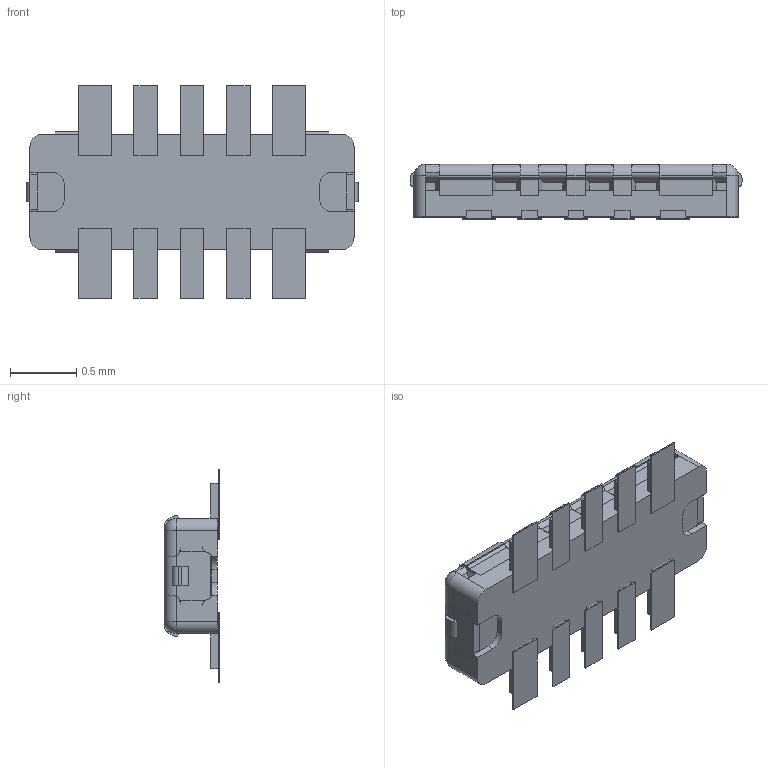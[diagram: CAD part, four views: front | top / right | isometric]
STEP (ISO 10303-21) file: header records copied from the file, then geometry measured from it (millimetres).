
FILE_DESCRIPTION((''),'2;1');
FILE_NAME('GT-B0353MSV04-06B0201_ASM','2024-10-25T',('13532'),(''),'PRO/ENGINEER BY PARAMETRIC TECHNOLOGY CORPORATION, 2015070','PRO/ENGINEER BY PARAMETRIC TECHNOLOGY CORPORATION, 2015070','');
FILE_SCHEMA(('CONFIG_CONTROL_DESIGN'));
Length unit declared in the file: millimetre
Products named in the file (28): ____3-12569_STP; ____1-6250_STP; ____9-15541_STP; ____4-21915_STP; ____5-4755_STP; ____2-14047_STP; ____7-898_STP; ____6-19397_STP; ____8-17749_STP; ____10-20437_STP; PAD-PLUG-6PIN_1_ASM_STP_ASM; ____7-9337_STP; ____8-13596_STP; ____6-17898_STP; ____2-16129_STP; ____9-4578_STP; ____3-21043_STP; ____1-8041_STP; ____4-14772_STP; ____5-7576_STP; ____10-16883_STP; BB350____-6PIN_PLUG______1_ASM__ASM; HOUSING-M_1_2_STP; BB350-6_PLUG__ASM_STP_ASM; YXT-BB350-06P24A0_ASM_STP_ASM; GT-B0353MSV04-06B0201_STP_ASM; ASM0003_ASM; GT-B0353MSV04-06B0201_ASM
Assembly tree (27 placements, depth 7):
  GT-B0353MSV04-06B0201_ASM
    ASM0003_ASM
      GT-B0353MSV04-06B0201_STP_ASM
        YXT-BB350-06P24A0_ASM_STP_ASM
          PAD-PLUG-6PIN_1_ASM_STP_ASM
            ____3-12569_STP
            ____1-6250_STP
            ____9-15541_STP
            ____4-21915_STP
            ____5-4755_STP
            ____2-14047_STP
            ____7-898_STP
            ____6-19397_STP
            ____8-17749_STP
            ____10-20437_STP
          BB350-6_PLUG__ASM_STP_ASM
            BB350____-6PIN_PLUG______1_ASM__ASM
              ____7-9337_STP
              ____8-13596_STP
              ____6-17898_STP
              ____2-16129_STP
              ____9-4578_STP
              ____3-21043_STP
              ____1-8041_STP
              ____4-14772_STP
              ____5-7576_STP
              ____10-16883_STP
            HOUSING-M_1_2_STP
Bounding box: 2.51 x 0.42 x 1.61 mm (x, y, z)
Volume: 0.7 mm3; surface area: 18.5 mm2
Topology: 21 solids, 21 shells, 897 faces, 2468 edges, 1630 vertices
Faces by surface type: plane 638, cylinder 184, extrusion 71, sphere 4
Entity records: 31894 total; most frequent: CARTESIAN_POINT 8546, ORIENTED_EDGE 4928, DIRECTION 4501, EDGE_CURVE 2464, VECTOR 1859, LINE 1788, VERTEX_POINT 1630, AXIS2_PLACEMENT_3D 1321
